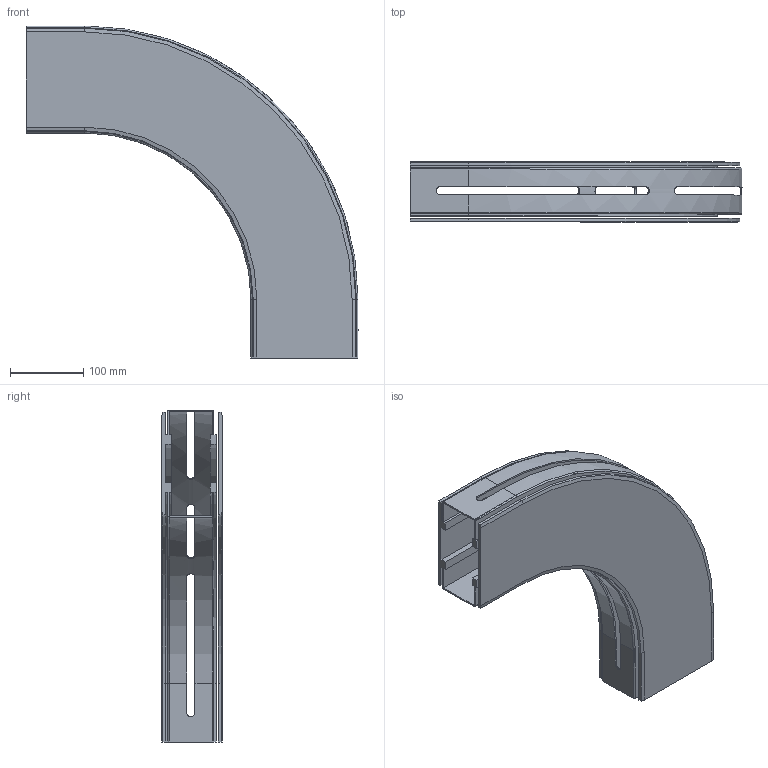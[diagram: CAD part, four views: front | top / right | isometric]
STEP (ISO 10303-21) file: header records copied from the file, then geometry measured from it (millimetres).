
FILE_DESCRIPTION((''),'2;1');
FILE_NAME('C:\Vault Klient\Projekt\Koncept konstruktion\Serie 540 Balk\540-5210.stp','2010-11-24T13:10:48',('Mathias'),(''),'Autodesk Inventor 2011','Autodesk Inventor 2011','');
FILE_SCHEMA(('AUTOMOTIVE_DESIGN { 1 0 10303 214 1 1 1 1 }'));
Length unit declared in the file: millimetre
Products named in the file (1): 540-5210
Bounding box: 453 x 82 x 453 mm (x, y, z)
Volume: 1425532.5 mm3; surface area: 735369.5 mm2
Topology: 2 solids, 2 shells, 159 faces, 458 edges, 300 vertices
Faces by surface type: plane 101, cylinder 30, bspline 18, cone 6, torus 4
Entity records: 5570 total; most frequent: CARTESIAN_POINT 1340, ORIENTED_EDGE 916, DIRECTION 794, EDGE_CURVE 458, VECTOR 334, LINE 334, VERTEX_POINT 300, AXIS2_PLACEMENT_3D 230
